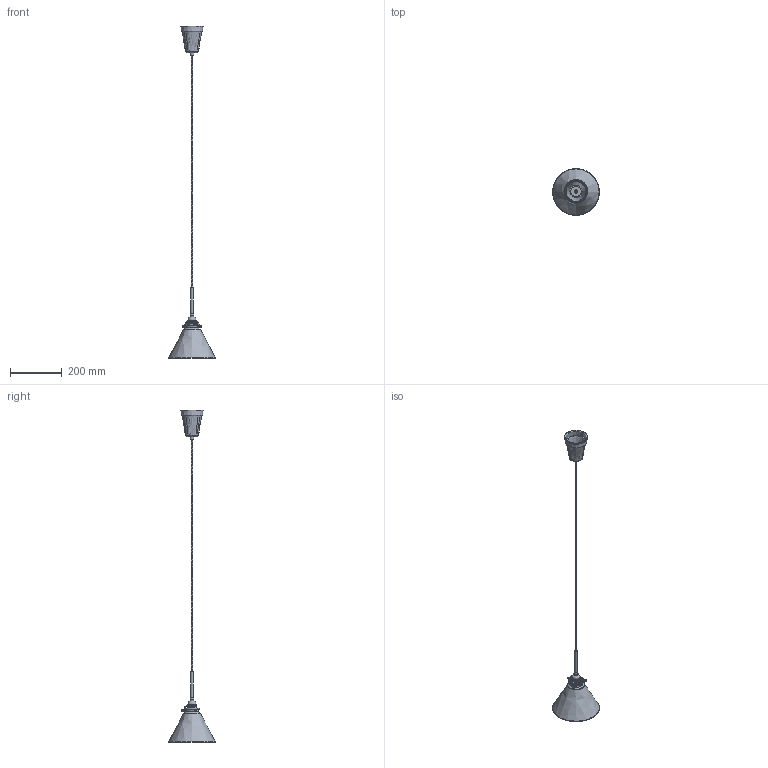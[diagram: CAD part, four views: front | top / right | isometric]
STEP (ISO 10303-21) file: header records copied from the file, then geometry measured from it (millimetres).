
FILE_DESCRIPTION(/* description */ (''),/* implementation_level */ '2;1');
FILE_NAME(/* name */ 'KINOSH~1',/* time_stamp */ '2022-04-08T14:56:16+09:00',/* author */ (''),/* organization */ (''),/* preprocessor_version */ 'ST-DEVELOPER v16.5',/* originating_system */ '',/* authorisation */ '');
FILE_SCHEMA (('AUTOMOTIVE_DESIGN'));
Products named in the file (1): Document
Bounding box: 179.73 x 179.73 x 1280 mm (x, y, z)
Volume: 297785.2 mm3; surface area: 190756.8 mm2
Topology: 12 solids, 20 shells, 7685 faces, 21603 edges, 14006 vertices
Faces by surface type: plane 4969, bspline 2716
Entity records: 270658 total; most frequent: CARTESIAN_POINT 137759, ORIENTED_EDGE 42534, EDGE_CURVE 21298, B_SPLINE_CURVE_WITH_KNOTS 16814, VERTEX_POINT 13644, EDGE_LOOP 7625, ADVANCED_FACE 7608, FACE_OUTER_BOUND 7608
